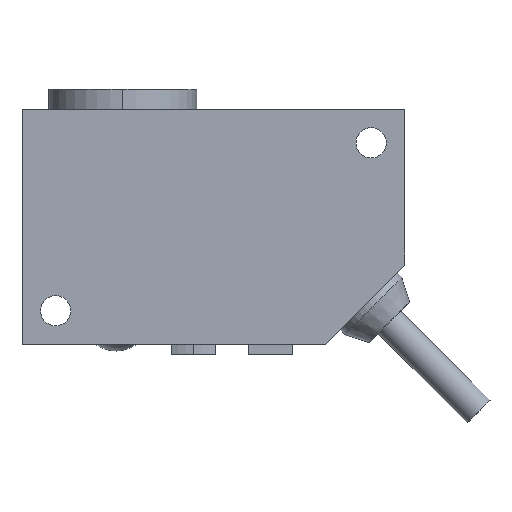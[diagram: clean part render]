
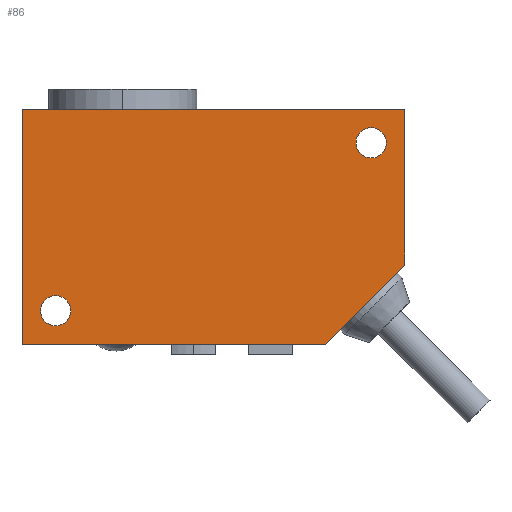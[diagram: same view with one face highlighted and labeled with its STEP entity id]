
A CAD part, left-side view. The second image highlights one B-rep face of the part: STEP entity #86.
In plain terms, the highlighted planar face has unit normal (-1, 0, 0).
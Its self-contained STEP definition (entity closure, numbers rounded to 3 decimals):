
#22 = EDGE_CURVE ( 'NONE', #25, #324, #476, .T. ) ;
#25 = VERTEX_POINT ( 'NONE', #526 ) ;
#33 = VERTEX_POINT ( 'NONE', #513 ) ;
#41 = EDGE_CURVE ( 'NONE', #33, #68, #559, .T. ) ;
#48 = VERTEX_POINT ( 'NONE', #556 ) ;
#55 = ORIENTED_EDGE ( 'NONE', *, *, #370, .T. ) ;
#56 = ORIENTED_EDGE ( 'NONE', *, *, #117, .F. ) ;
#57 = EDGE_CURVE ( 'NONE', #83, #120, #600, .T. ) ;
#68 = VERTEX_POINT ( 'NONE', #544 ) ;
#69 = EDGE_LOOP ( 'NONE', ( #88, #122, #81, #56, #85, #55 ) ) ;
#79 = EDGE_CURVE ( 'NONE', #48, #68, #573, .T. ) ;
#80 = EDGE_CURVE ( 'NONE', #329, #33, #623, .T. ) ;
#81 = ORIENTED_EDGE ( 'NONE', *, *, #80, .F. ) ;
#83 = VERTEX_POINT ( 'NONE', #586 ) ;
#85 = ORIENTED_EDGE ( 'NONE', *, *, #57, .F. ) ;
#86 = ADVANCED_FACE ( 'NONE', ( #618, #616, #624 ), #615, .T. ) ;
#88 = ORIENTED_EDGE ( 'NONE', *, *, #79, .T. ) ;
#117 = EDGE_CURVE ( 'NONE', #120, #329, #689, .T. ) ;
#120 = VERTEX_POINT ( 'NONE', #681 ) ;
#122 = ORIENTED_EDGE ( 'NONE', *, *, #41, .F. ) ;
#314 = VERTEX_POINT ( 'NONE', #1027 ) ;
#324 = VERTEX_POINT ( 'NONE', #1012 ) ;
#329 = VERTEX_POINT ( 'NONE', #1010 ) ;
#369 = ORIENTED_EDGE ( 'NONE', *, *, #438, .T. ) ;
#370 = EDGE_CURVE ( 'NONE', #83, #48, #1119, .T. ) ;
#372 = EDGE_LOOP ( 'NONE', ( #381, #377 ) ) ;
#373 = EDGE_LOOP ( 'NONE', ( #379, #369 ) ) ;
#374 = EDGE_CURVE ( 'NONE', #324, #25, #1104, .T. ) ;
#375 = EDGE_CURVE ( 'NONE', #436, #314, #1098, .T. ) ;
#377 = ORIENTED_EDGE ( 'NONE', *, *, #22, .T. ) ;
#379 = ORIENTED_EDGE ( 'NONE', *, *, #375, .T. ) ;
#381 = ORIENTED_EDGE ( 'NONE', *, *, #374, .T. ) ;
#436 = VERTEX_POINT ( 'NONE', #1210 ) ;
#438 = EDGE_CURVE ( 'NONE', #314, #436, #1200, .T. ) ;
#476 = CIRCLE ( 'NONE', #536, 2.25 ) ;
#513 = CARTESIAN_POINT ( 'NONE',  ( -12., 15., -3. ) ) ;
#526 = CARTESIAN_POINT ( 'NONE',  ( -12., 12.25, -33. ) ) ;
#527 = DIRECTION ( 'NONE',  ( 0., -1., 0. ) ) ;
#528 = DIRECTION ( 'NONE',  ( 1., 0., 0. ) ) ;
#534 = CARTESIAN_POINT ( 'NONE',  ( -12., 10., -33. ) ) ;
#536 = AXIS2_PLACEMENT_3D ( 'NONE', #534, #528, #527 ) ;
#544 = CARTESIAN_POINT ( 'NONE',  ( -12., -42., -3. ) ) ;
#553 = DIRECTION ( 'NONE',  ( 0., -1., 0. ) ) ;
#554 = VECTOR ( 'NONE', #553, 1000. ) ;
#555 = CARTESIAN_POINT ( 'NONE',  ( -12., 15., -3. ) ) ;
#556 = CARTESIAN_POINT ( 'NONE',  ( -12., -42., -26.2 ) ) ;
#559 = LINE ( 'NONE', #555, #554 ) ;
#573 = LINE ( 'NONE', #627, #626 ) ;
#586 = CARTESIAN_POINT ( 'NONE',  ( -12., -31.4, -36.8 ) ) ;
#593 = DIRECTION ( 'NONE',  ( -1., 0., 0. ) ) ;
#597 = DIRECTION ( 'NONE',  ( 0., 0.707, -0.707 ) ) ;
#598 = VECTOR ( 'NONE', #597, 1000. ) ;
#599 = CARTESIAN_POINT ( 'NONE',  ( -12., -31.4, -36.8 ) ) ;
#600 = LINE ( 'NONE', #599, #598 ) ;
#609 = DIRECTION ( 'NONE',  ( 0., 1., 0. ) ) ;
#613 = CARTESIAN_POINT ( 'NONE',  ( -12., -42.2, -38. ) ) ;
#615 = PLANE ( 'NONE',  #619 ) ;
#616 = FACE_BOUND ( 'NONE', #372, .T. ) ;
#618 = FACE_OUTER_BOUND ( 'NONE', #69, .T. ) ;
#619 = AXIS2_PLACEMENT_3D ( 'NONE', #613, #593, #609 ) ;
#620 = DIRECTION ( 'NONE',  ( 0., 0., 1. ) ) ;
#621 = VECTOR ( 'NONE', #620, 1000. ) ;
#622 = CARTESIAN_POINT ( 'NONE',  ( -12., 15., -4.9 ) ) ;
#623 = LINE ( 'NONE', #622, #621 ) ;
#624 = FACE_BOUND ( 'NONE', #373, .T. ) ;
#625 = DIRECTION ( 'NONE',  ( 0., 0., 1. ) ) ;
#626 = VECTOR ( 'NONE', #625, 1000. ) ;
#627 = CARTESIAN_POINT ( 'NONE',  ( -12., -42., -38. ) ) ;
#681 = CARTESIAN_POINT ( 'NONE',  ( -12., -30.2, -38. ) ) ;
#686 = DIRECTION ( 'NONE',  ( 0., 1., 0. ) ) ;
#687 = VECTOR ( 'NONE', #686, 1000. ) ;
#688 = CARTESIAN_POINT ( 'NONE',  ( -12., 15., -38. ) ) ;
#689 = LINE ( 'NONE', #688, #687 ) ;
#1010 = CARTESIAN_POINT ( 'NONE',  ( -12., 15., -38. ) ) ;
#1012 = CARTESIAN_POINT ( 'NONE',  ( -12., 7.75, -33. ) ) ;
#1027 = CARTESIAN_POINT ( 'NONE',  ( -12., -34.75, -8. ) ) ;
#1094 = DIRECTION ( 'NONE',  ( 0., 1., 0. ) ) ;
#1095 = DIRECTION ( 'NONE',  ( 1., 0., 0. ) ) ;
#1096 = CARTESIAN_POINT ( 'NONE',  ( -12., -37., -8. ) ) ;
#1097 = AXIS2_PLACEMENT_3D ( 'NONE', #1096, #1095, #1094 ) ;
#1098 = CIRCLE ( 'NONE', #1097, 2.25 ) ;
#1100 = DIRECTION ( 'NONE',  ( 0., -1., 0. ) ) ;
#1101 = DIRECTION ( 'NONE',  ( 1., 0., 0. ) ) ;
#1102 = CARTESIAN_POINT ( 'NONE',  ( -12., 10., -33. ) ) ;
#1103 = AXIS2_PLACEMENT_3D ( 'NONE', #1102, #1101, #1100 ) ;
#1104 = CIRCLE ( 'NONE', #1103, 2.25 ) ;
#1108 = DIRECTION ( 'NONE',  ( 0., -0.707, 0.707 ) ) ;
#1109 = VECTOR ( 'NONE', #1108, 1000. ) ;
#1110 = CARTESIAN_POINT ( 'NONE',  ( -12., -31.4, -36.8 ) ) ;
#1119 = LINE ( 'NONE', #1110, #1109 ) ;
#1196 = DIRECTION ( 'NONE',  ( 0., 1., 0. ) ) ;
#1197 = DIRECTION ( 'NONE',  ( 1., 0., 0. ) ) ;
#1198 = CARTESIAN_POINT ( 'NONE',  ( -12., -37., -8. ) ) ;
#1199 = AXIS2_PLACEMENT_3D ( 'NONE', #1198, #1197, #1196 ) ;
#1200 = CIRCLE ( 'NONE', #1199, 2.25 ) ;
#1210 = CARTESIAN_POINT ( 'NONE',  ( -12., -39.25, -8. ) ) ;
